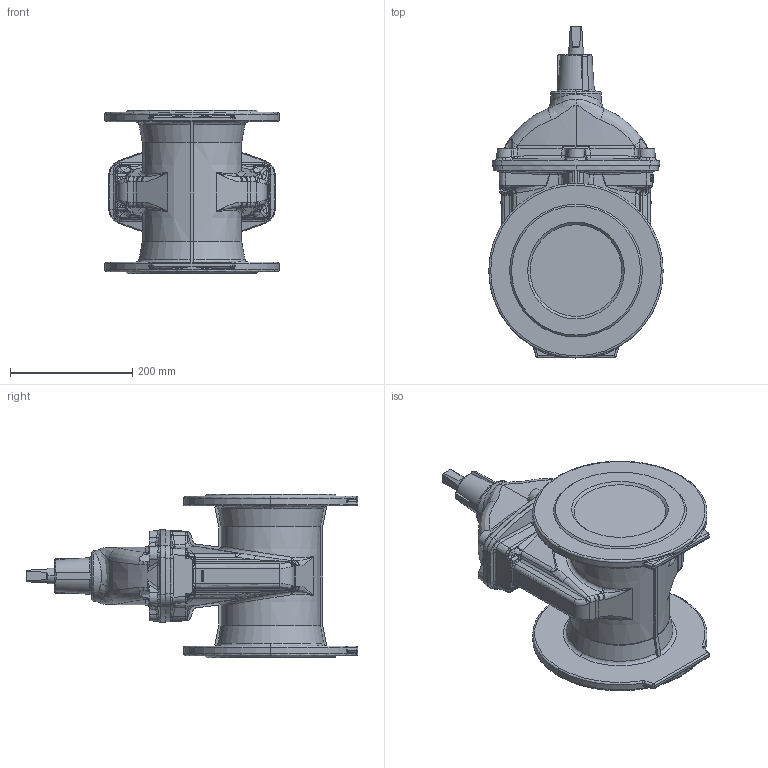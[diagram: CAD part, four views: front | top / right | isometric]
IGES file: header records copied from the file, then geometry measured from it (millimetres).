
Start section: SolidWorks IGES file using analytic representation for surfaces
Global section: file name: C:\Users\qida\Desktop\kerrie.qian\02_20 outline drawing\DN150\O_02_20_DN150_XXXXX9.IGS; native system: SolidWorks 2012; preprocessor: SolidWorks 2012; author: qida; date: 140714.154345; units: millimetre
Bounding box: 285 x 542.52 x 267 mm (x, y, z)
Volume: 11929914.5 mm3; surface area: 538013 mm2
Topology: 1 solids, 1 shells, 869 faces, 2189 edges, 1308 vertices
Faces by surface type: bspline 367, revolution 298, plane 204
